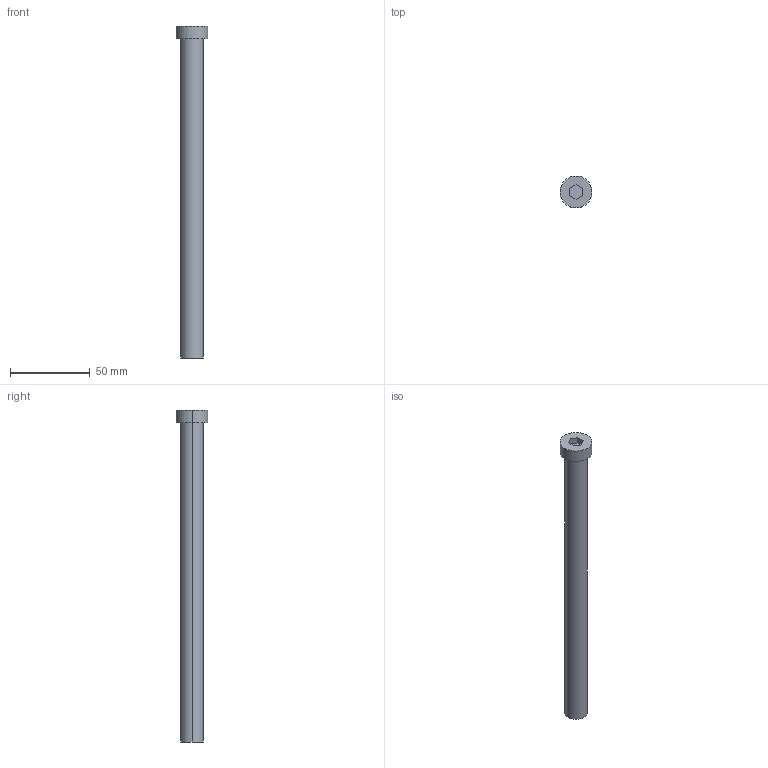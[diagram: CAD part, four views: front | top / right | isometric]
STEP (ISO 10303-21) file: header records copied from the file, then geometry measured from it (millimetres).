
FILE_DESCRIPTION (( 'STEP AP214' ), '1' );
FILE_NAME ('BruyRubio_TGH__14_x_200_-_M-8.STEP', '2019-12-22T23:35:40', ( '' ), ( '' ), 'SwSTEP 2.0', 'SolidWorks 2017', '' );
FILE_SCHEMA (( 'AUTOMOTIVE_DESIGN' ));
Length unit declared in the file: millimetre
Products named in the file (1): BruyRubio_TGH__14_x_200_-_M-8
Bounding box: 20 x 20 x 208 mm (x, y, z)
Volume: 32351.3 mm3; surface area: 11399.5 mm2
Topology: 2 solids, 2 shells, 27 faces, 58 edges, 37 vertices
Faces by surface type: plane 13, cylinder 12, cone 2
Entity records: 1070 total; most frequent: DIRECTION 136, CARTESIAN_POINT 121, ORIENTED_EDGE 112, EDGE_CURVE 56, AXIS2_PLACEMENT_3D 52, VERTEX_POINT 37, EDGE_LOOP 33, LINE 32
